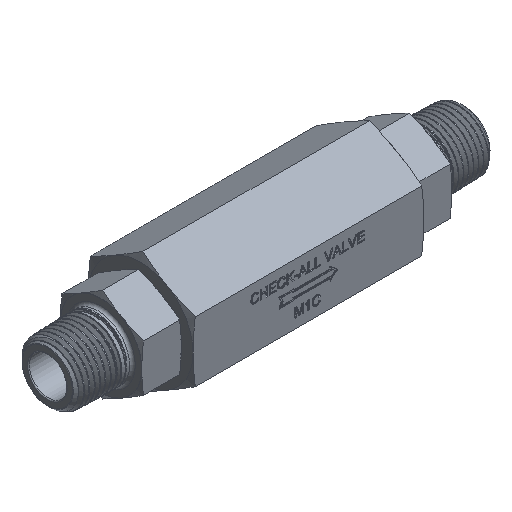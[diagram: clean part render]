
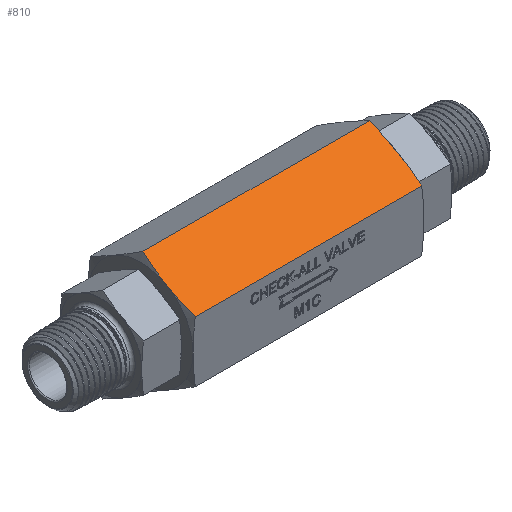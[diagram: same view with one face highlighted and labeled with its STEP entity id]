
A CAD part, isometric view. The second image highlights one B-rep face of the part: STEP entity #810.
In plain terms, the highlighted planar face has unit normal (0, -0.5, 0.866).
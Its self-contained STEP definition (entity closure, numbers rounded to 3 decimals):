
#810 = ADVANCED_FACE( '', ( #1942 ), #1943, .T. );
#1942 = FACE_OUTER_BOUND( '', #12886, .T. );
#1943 = PLANE( '', #12887 );
#12886 = EDGE_LOOP( '', ( #25164, #25165, #25166, #25167, #25168, #25169 ) );
#12887 = AXIS2_PLACEMENT_3D( '', #25170, #25171, #25172 );
#25164 = ORIENTED_EDGE( '', *, *, #27221, .T. );
#25165 = ORIENTED_EDGE( '', *, *, #27816, .T. );
#25166 = ORIENTED_EDGE( '', *, *, #27817, .F. );
#25167 = ORIENTED_EDGE( '', *, *, #27818, .T. );
#25168 = ORIENTED_EDGE( '', *, *, #27819, .T. );
#25169 = ORIENTED_EDGE( '', *, *, #27820, .T. );
#25170 = CARTESIAN_POINT( '', ( 25.023, 0., 16.498 ) );
#25171 = DIRECTION( '', ( 0., -0.5, 0.866 ) );
#25172 = DIRECTION( '', ( 0., -0.866, -0.5 ) );
#27221 = EDGE_CURVE( '', #28707, #28705, #28708, .T. );
#27816 = EDGE_CURVE( '', #28705, #29352, #29609, .T. );
#27817 = EDGE_CURVE( '', #29610, #29352, #29611, .T. );
#27818 = EDGE_CURVE( '', #29610, #29612, #29613, .T. );
#27819 = EDGE_CURVE( '', #29612, #29614, #29615, .T. );
#27820 = EDGE_CURVE( '', #29614, #28707, #29616, .T. );
#28705 = VERTEX_POINT( '', #31290 );
#28707 = VERTEX_POINT( '', #31297 );
#28708 = LINE( '', #31298, #31299 );
#29352 = VERTEX_POINT( '', #34542 );
#29609 = B_SPLINE_CURVE_WITH_KNOTS( '', 3, ( #37715, #37716, #37717, #37718, #37719, #37720 ), .UNSPECIFIED., .F., .F., ( 4, 2, 4 ), ( 0., 0.004, 0.008 ), .UNSPECIFIED. );
#29610 = VERTEX_POINT( '', #37721 );
#29611 = B_SPLINE_CURVE_WITH_KNOTS( '', 3, ( #37722, #37723, #37724, #37725, #37726, #37727 ), .UNSPECIFIED., .F., .F., ( 4, 2, 4 ), ( 0., 0.004, 0.008 ), .UNSPECIFIED. );
#29612 = VERTEX_POINT( '', #37728 );
#29613 = LINE( '', #37729, #37730 );
#29614 = VERTEX_POINT( '', #37731 );
#29615 = B_SPLINE_CURVE_WITH_KNOTS( '', 3, ( #37732, #37733, #37734, #37735, #37736, #37737 ), .UNSPECIFIED., .F., .F., ( 4, 2, 4 ), ( 0., 0.004, 0.008 ), .UNSPECIFIED. );
#29616 = B_SPLINE_CURVE_WITH_KNOTS( '', 3, ( #37738, #37739, #37740, #37741, #37742, #37743 ), .UNSPECIFIED., .F., .F., ( 4, 2, 4 ), ( 0., 0.004, 0.008 ), .UNSPECIFIED. );
#31290 = CARTESIAN_POINT( '', ( 87.698, -14.288, 8.249 ) );
#31297 = CARTESIAN_POINT( '', ( 25.992, -14.288, 8.249 ) );
#31298 = CARTESIAN_POINT( '', ( 25.023, -14.288, 8.249 ) );
#31299 = VECTOR( '', #41478, 1000. );
#34542 = CARTESIAN_POINT( '', ( 88.29, -7.144, 12.373 ) );
#37715 = CARTESIAN_POINT( '', ( 87.698, -14.288, 8.249 ) );
#37716 = CARTESIAN_POINT( '', ( 87.882, -13.102, 8.933 ) );
#37717 = CARTESIAN_POINT( '', ( 88.031, -11.915, 9.619 ) );
#37718 = CARTESIAN_POINT( '', ( 88.236, -9.534, 10.993 ) );
#37719 = CARTESIAN_POINT( '', ( 88.29, -8.341, 11.682 ) );
#37720 = CARTESIAN_POINT( '', ( 88.29, -7.144, 12.373 ) );
#37721 = CARTESIAN_POINT( '', ( 87.698, 0., 16.498 ) );
#37722 = CARTESIAN_POINT( '', ( 87.698, 0., 16.498 ) );
#37723 = CARTESIAN_POINT( '', ( 87.882, -1.185, 15.813 ) );
#37724 = CARTESIAN_POINT( '', ( 88.031, -2.373, 15.128 ) );
#37725 = CARTESIAN_POINT( '', ( 88.236, -4.754, 13.753 ) );
#37726 = CARTESIAN_POINT( '', ( 88.29, -5.947, 13.064 ) );
#37727 = CARTESIAN_POINT( '', ( 88.29, -7.144, 12.373 ) );
#37728 = CARTESIAN_POINT( '', ( 25.992, 0., 16.498 ) );
#37729 = CARTESIAN_POINT( '', ( 25.023, 0., 16.498 ) );
#37730 = VECTOR( '', #41845, 1000. );
#37731 = CARTESIAN_POINT( '', ( 25.4, -7.144, 12.373 ) );
#37732 = CARTESIAN_POINT( '', ( 25.992, 0., 16.498 ) );
#37733 = CARTESIAN_POINT( '', ( 25.809, -1.185, 15.813 ) );
#37734 = CARTESIAN_POINT( '', ( 25.659, -2.373, 15.128 ) );
#37735 = CARTESIAN_POINT( '', ( 25.455, -4.754, 13.753 ) );
#37736 = CARTESIAN_POINT( '', ( 25.4, -5.947, 13.064 ) );
#37737 = CARTESIAN_POINT( '', ( 25.4, -7.144, 12.373 ) );
#37738 = CARTESIAN_POINT( '', ( 25.4, -7.144, 12.373 ) );
#37739 = CARTESIAN_POINT( '', ( 25.4, -8.341, 11.682 ) );
#37740 = CARTESIAN_POINT( '', ( 25.455, -9.534, 10.993 ) );
#37741 = CARTESIAN_POINT( '', ( 25.659, -11.915, 9.619 ) );
#37742 = CARTESIAN_POINT( '', ( 25.809, -13.102, 8.933 ) );
#37743 = CARTESIAN_POINT( '', ( 25.992, -14.288, 8.249 ) );
#41478 = DIRECTION( '', ( 1., 0., 0. ) );
#41845 = DIRECTION( '', ( -1., 0., 0. ) );
